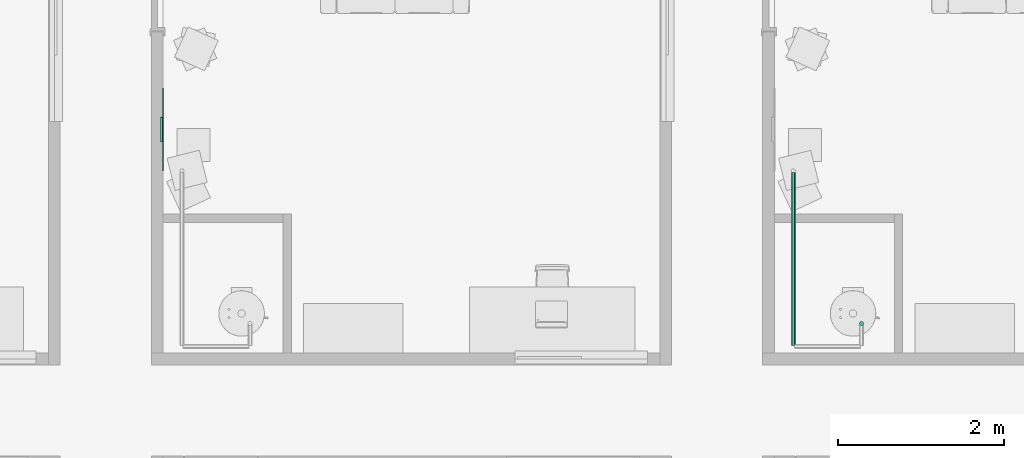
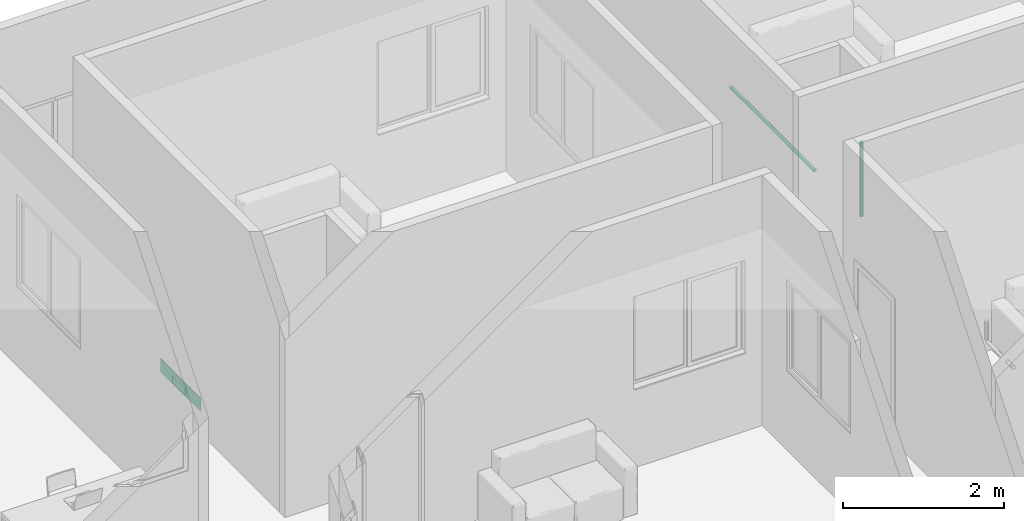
# One storey, part 39 of 71: 2 pipe segments, 1 air terminal.
"""IFC4 building model written with IfcOpenShell, lengths in centimetres."""

from ifc_helpers import new_model, entity, si_unit, converted_unit, derived_unit, direction, frame, origin, place, context, subcontext, project, spatial, arc, indexed_curve, outline, extrude, source, transform, mapped, material, constituent, constituent_set, type_object, type_shapes, element, save


model = new_model("IFC4")

# Units and contexts
model_context = context("Model", 3, precision=0.001, world=origin(), true_north=direction((6.123233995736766e-17, 1.0)))
body_context = subcontext(model_context, "Body", "Model", "MODEL_VIEW")
ifc_project = project(units=[si_unit("LENGTHUNIT", "METRE", prefix="CENTI"), si_unit("AREAUNIT", "SQUARE_METRE"), si_unit("VOLUMEUNIT", "CUBIC_METRE"), derived_unit("THERMALTRANSMITTANCEUNIT", [(si_unit("MASSUNIT", "GRAM", prefix="KILO"), 1), (si_unit("THERMODYNAMICTEMPERATUREUNIT", "KELVIN"), -1), (si_unit("TIMEUNIT", "SECOND"), -3)]), converted_unit("PLANEANGLEUNIT", "DEGREE", entity("IfcPlaneAngleMeasure", 0.017453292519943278), si_unit("PLANEANGLEUNIT", "RADIAN"), dimensions=[0, 0, 0, 0, 0, 0, 0]), derived_unit("MASSDENSITYUNIT", [(si_unit("MASSUNIT", "GRAM", prefix="KILO"), 1), (si_unit("LENGTHUNIT", "METRE"), -3)]), derived_unit("VAPORPERMEABILITYUNIT", [(si_unit("LENGTHUNIT", "METRE"), -1), (si_unit("TIMEUNIT", "SECOND"), 1)]), derived_unit("USERDEFINED", [(si_unit("MASSUNIT", "GRAM", prefix="KILO"), 1), (si_unit("TIMEUNIT", "SECOND"), -3), (si_unit("LENGTHUNIT", "METRE"), 3), (si_unit("ELECTRICCURRENTUNIT", "AMPERE"), -2)]), derived_unit("SPECIFICHEATCAPACITYUNIT", [(si_unit("THERMODYNAMICTEMPERATUREUNIT", "KELVIN"), -1), (si_unit("LENGTHUNIT", "METRE"), 2), (si_unit("TIMEUNIT", "SECOND"), -2)]), derived_unit("THERMALCONDUCTANCEUNIT", [(si_unit("MASSUNIT", "GRAM", prefix="KILO"), 1), (si_unit("THERMODYNAMICTEMPERATUREUNIT", "KELVIN"), -1), (si_unit("TIMEUNIT", "SECOND"), -3), (si_unit("LENGTHUNIT", "METRE"), 1)]), si_unit("PRESSUREUNIT", "PASCAL"), derived_unit("MODULUSOFELASTICITYUNIT", [(si_unit("MASSUNIT", "GRAM", prefix="KILO"), 1), (si_unit("LENGTHUNIT", "METRE"), -1), (si_unit("TIMEUNIT", "SECOND"), -2)]), derived_unit("THERMALEXPANSIONCOEFFICIENTUNIT", [(si_unit("THERMODYNAMICTEMPERATUREUNIT", "KELVIN"), -1)])], contexts=[model_context])

# Site, building, storey, space
site_placement = place(None, origin())
site = spatial("IfcSite", under=ifc_project, at=site_placement, Name="Default", CompositionType="ELEMENT")
building_placement = place(site_placement, origin())
building = spatial("IfcBuilding", under=site, at=building_placement, Name="IDS Escape Game Building", CompositionType="ELEMENT")
storey_placement = place(building_placement, frame((0.0, 0.0, 1200.0)))
storey = spatial("IfcBuildingStorey", under=building, at=storey_placement, Name="03_Third Floor", CompositionType="ELEMENT", Elevation=1200.0)
space_placement = place(storey_placement, origin())
space = spatial("IfcSpace", under=storey, at=space_placement, Name="139", CompositionType="ELEMENT", PredefinedType="NOTDEFINED")

# Air terminal
ifc_material_1 = material(Name="TB_LVC_referentievlak_00_gen_BERSnl", Category="BE Default")
ifc_constituent_1 = constituent(ifc_material_1, Name="TB_LVC_referentievlak_00_gen_BERSnl", Category="BE Default", fraction=0.00014157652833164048)
ifc_material_2 = material(Name="ARC_FME.h2_staal_00_gen_BERSnl", Category="h - metaal")
ifc_constituent_2 = constituent(ifc_material_2, Name="ARC_FME.h2_staal_00_gen_BERSnl", Category="h - metaal", fraction=0.9998584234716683)
ifc_constituent_set_1 = constituent_set(constituents=[ifc_constituent_1, ifc_constituent_2])
ifc_constituent_3 = constituent(ifc_material_1, Name="BE Referentievlak", Category="BE Default", fraction=0.00014157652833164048)
ifc_constituent_4 = constituent(ifc_material_2, Name="Terminals", Category="h - metaal", fraction=0.9998584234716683)
ifc_constituent_set_2 = constituent_set(constituents=[ifc_constituent_3, ifc_constituent_4])
air_terminal_type = type_object("IfcAirTerminalType", Name="TB_57_AIR_FB_aanzuigrooster - 1 rechthoekige aansluiting - calculated flow_gen_BERSnl:Air Terminal - Exhaust", PredefinedType="GRILLE", material=ifc_constituent_set_2)
shared_shape = source(origin(), body_context, "Body", "SweptSolid", [
    extrude(outline(indexed_curve([(-0.5, -2.0290176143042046e-15), (6.8507733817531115e-16, -0.5000000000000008), (0.5, 2.0290176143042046e-15), (-5.361679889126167e-16, 0.49999999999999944)], segments=[arc(1, 2, 3), arc(3, 4, 1)], self_intersect=False)), frame((0.0, 0.0, 0.0), z_axis=(1.7453292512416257e-05, 0.0, 1.0), x_axis=(0.0, 1.0, 0.0)), (0.0, 0.0, 1.0), 0.09999999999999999),
    extrude(outline(indexed_curve([(-14.900000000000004, -4.9), (14.900000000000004, -4.9), (14.900000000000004, 4.9), (-14.900000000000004, 4.9), (-14.900000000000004, -4.9)], self_intersect=False)), frame((-4.886921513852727e-05, 0.0, -2.7999999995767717)), (0.0, 0.0, 1.0), 2.7999999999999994),
    extrude(outline(indexed_curve([(-50.0, -10.0), (50.0, -10.0), (50.0, 10.0), (-50.0, 10.0), (-50.0, -10.0)], self_intersect=False)), frame((0.0, 0.0, 0.0), z_axis=(0.0, 0.0, 1.0), x_axis=(-1.0, 0.0, 0.0)), (0.0, 0.0, 1.0), 0.6999999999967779),
])
type_shapes(air_terminal_type, [shared_shape])
air_terminal_placement = place(space_placement, frame((3697.0, 2835.0, 24.0), z_axis=(1.0, 0.0, 0.0), x_axis=(0.0, 1.0, 0.0)))
element("IfcAirTerminal", 1, at=air_terminal_placement, inside=space, type_object=air_terminal_type, material=ifc_constituent_set_1, Name="TB_57_AIR_FB_aanzuigrooster - 1 rechthoekige aansluiting - calculated flow_gen_BERSnl:Air Terminal - Exhaust", ObjectType="TB_57_AIR_FB_aanzuigrooster - 1 rechthoekige aansluiting - calculated flow_gen_BERSnl:Air Terminal - Exhaust", PredefinedType="GRILLE", context=body_context, shape_type="MappedRepresentation", body=[
    mapped(shared_shape, transform((0.0, 0.0, 0.0), scale=1.0)),
])

# Pipe segments
pipe_segment_type = type_object("IfcPipeSegmentType", Name="Pipe Types:Piping Aluminum", PredefinedType="NOTDEFINED")
pipe_segment_1_placement = place(storey_placement, origin())
element("IfcPipeSegment", 2, at=pipe_segment_1_placement, inside=storey, type_object=pipe_segment_type, Name="Pipe Types:Piping Aluminum", ObjectType="Pipe Types:Piping Aluminum", PredefinedType="NOTDEFINED", context=body_context, shape_type="SweptSolid", body=[
    extrude(outline(indexed_curve([(2.4130000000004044, 0.0), (1.7062486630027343, 1.7062486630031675), (0.0, 2.412999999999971), (-1.7062486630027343, 1.7062486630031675), (-2.4130000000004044, 0.0), (-1.7062486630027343, -1.7062486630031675), (0.0, -2.412999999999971), (1.7062486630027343, -1.7062486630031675)], segments=[arc(1, 2, 3), arc(3, 4, 5), arc(5, 6, 7), arc(7, 8, 1)], self_intersect=False)), frame((4540.150000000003, 2600.9000000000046, 128.0), z_axis=(0.0, 0.0, 1.0), x_axis=(-1.0, 0.0, 0.0)), (0.0, 0.0, 1.0), 112.90000000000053),
])
pipe_segment_2_placement = place(storey_placement, origin())
element("IfcPipeSegment", 3, at=pipe_segment_2_placement, inside=storey, type_object=pipe_segment_type, Name="Pipe Types:Piping Aluminum", ObjectType="Pipe Types:Piping Aluminum", PredefinedType="NOTDEFINED", context=body_context, shape_type="SweptSolid", body=[
    extrude(outline(indexed_curve([(2.4130000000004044, 0.0), (1.7062486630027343, 1.7062486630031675), (0.0, 2.412999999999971), (-1.7062486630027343, 1.7062486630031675), (-2.4130000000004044, 0.0), (-1.7062486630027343, -1.7062486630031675), (0.0, -2.412999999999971), (1.7062486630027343, -1.7062486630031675)], segments=[arc(1, 2, 3), arc(3, 4, 5), arc(5, 6, 7), arc(7, 8, 1)], self_intersect=False)), frame((4458.046716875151, 2574.3648279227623, 242.0), z_axis=(0.0, 1.0, 0.0), x_axis=(1.0, 0.0, 0.0)), (0.0, 0.0, 1.0), 208.80000000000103),
])

save(model, "model.ifc")
